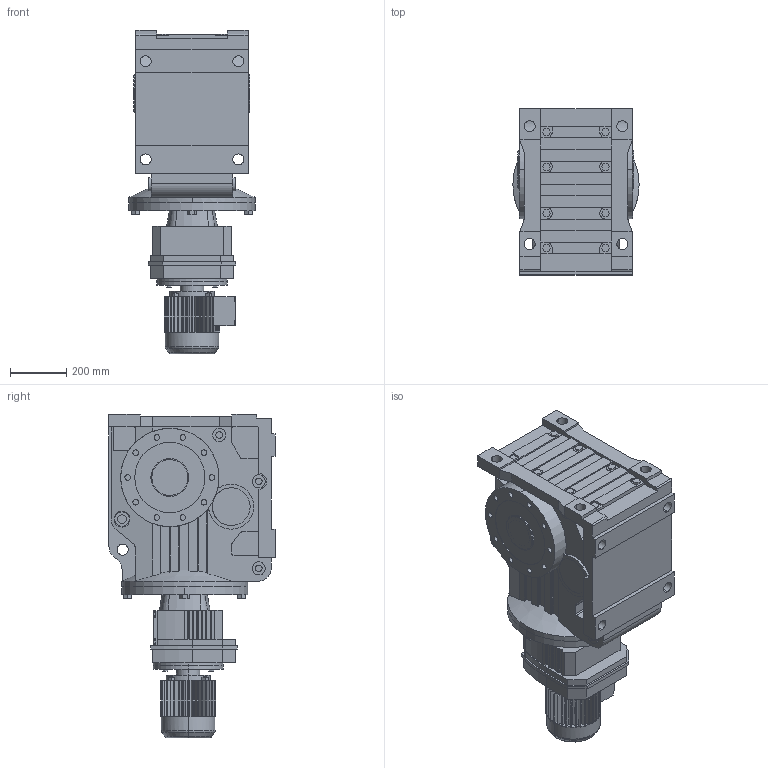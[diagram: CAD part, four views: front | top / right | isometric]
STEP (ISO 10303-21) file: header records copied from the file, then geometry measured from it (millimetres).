
FILE_DESCRIPTION(('Open CASCADE Model'),'2;1');
FILE_NAME('Open CASCADE Shape Model','2021-07-24T16:40:54',('Author'),( 'Open CASCADE'),'Open CASCADE STEP processor 6.3','Open CASCADE 6.3' ,'Unknown');
FILE_SCHEMA(('AUTOMOTIVE_DESIGN_CC2 { 1 2 10303 214 -1 1 5 4 }'));
Length unit declared in the file: millimetre
Products named in the file (5): 1_KA127R87DT90-A; KA127‵157_127.step; 萇儂_250-DT90-257-342-197-154.step; R_127_87.step; す瑩諾陑粣K_127.step
Assembly tree (4 placements, depth 2):
  1_KA127R87DT90-A
    KA127‵157_127.step
    萇儂_250-DT90-257-342-197-154.step
    R_127_87.step
    す瑩諾陑粣K_127.step
Bounding box: 450 x 592 x 1152 mm (x, y, z)
Volume: 132548581.4 mm3; surface area: 3726558.8 mm2
Topology: 4 solids, 4 shells, 1146 faces, 3024 edges, 1981 vertices
Faces by surface type: plane 784, cylinder 346, cone 12, torus 4
Entity records: 80999 total; most frequent: CARTESIAN_POINT 23381, DIRECTION 9913, ORIENTED_EDGE 6048, PCURVE 6048, DEFINITIONAL_REPRESENTATION 6048, LINE 5527, VECTOR 5527, EDGE_CURVE 3024
